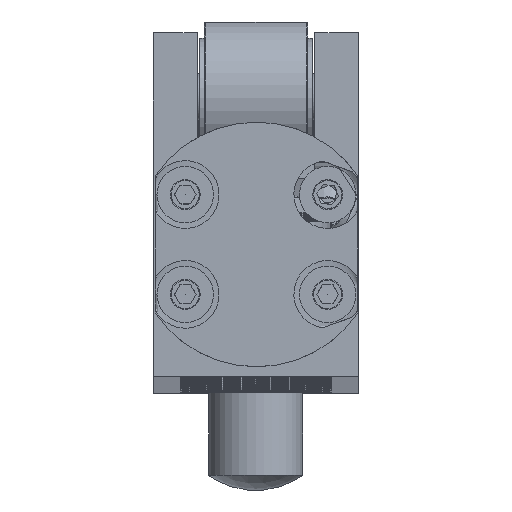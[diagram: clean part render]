
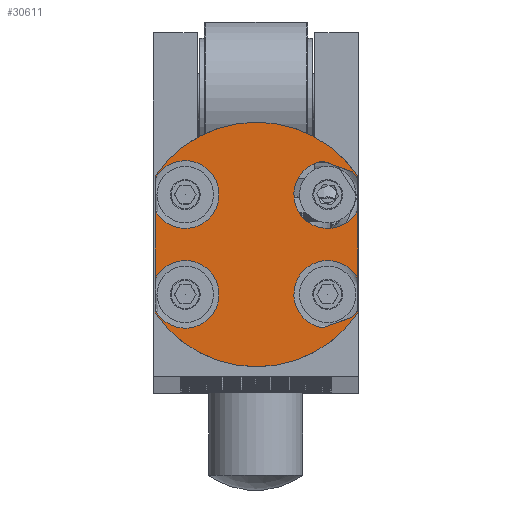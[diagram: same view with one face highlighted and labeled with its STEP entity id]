
A CAD part, top view. The second image highlights one B-rep face of the part: STEP entity #30611.
In plain terms, the highlighted planar face has unit normal (0, 0, 1).
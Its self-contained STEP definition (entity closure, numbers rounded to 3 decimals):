
#1512=PLANE('',#34669);
#2490=LINE('',#56692,#3575);
#2491=LINE('',#56695,#3576);
#2492=LINE('',#56699,#3577);
#2493=LINE('',#56703,#3578);
#2494=LINE('',#56707,#3579);
#2495=LINE('',#56711,#3580);
#2496=LINE('',#56715,#3581);
#2497=LINE('',#56718,#3582);
#3575=VECTOR('',#43825,10.);
#3576=VECTOR('',#43828,10.);
#3577=VECTOR('',#43831,10.);
#3578=VECTOR('',#43834,10.);
#3579=VECTOR('',#43837,10.);
#3580=VECTOR('',#43840,10.);
#3581=VECTOR('',#43843,10.);
#3582=VECTOR('',#43846,10.);
#5548=FACE_OUTER_BOUND('',#7410,.T.);
#7410=EDGE_LOOP('',(#25860,#25861,#25862,#25863,#25864,#25865,#25866,#25867,
#25868,#25869,#25870,#25871,#25872,#25873,#25874,#25875));
#10240=CIRCLE('',#34663,3.6);
#10243=CIRCLE('',#34666,3.6);
#10244=CIRCLE('',#34670,3.6);
#10245=CIRCLE('',#34671,3.6);
#10246=CIRCLE('',#34672,13.);
#10247=CIRCLE('',#34673,3.6);
#10248=CIRCLE('',#34674,3.6);
#10249=CIRCLE('',#34675,13.);
#13414=VERTEX_POINT('',#56668);
#13415=VERTEX_POINT('',#56669);
#13416=VERTEX_POINT('',#56673);
#13420=VERTEX_POINT('',#56684);
#13421=VERTEX_POINT('',#56694);
#13422=VERTEX_POINT('',#56696);
#13423=VERTEX_POINT('',#56698);
#13424=VERTEX_POINT('',#56700);
#13425=VERTEX_POINT('',#56702);
#13426=VERTEX_POINT('',#56704);
#13427=VERTEX_POINT('',#56706);
#13428=VERTEX_POINT('',#56708);
#13429=VERTEX_POINT('',#56710);
#13430=VERTEX_POINT('',#56712);
#13431=VERTEX_POINT('',#56714);
#13432=VERTEX_POINT('',#56716);
#17705=EDGE_CURVE('',#13416,#13414,#10240,.T.);
#17711=EDGE_CURVE('',#13415,#13420,#10243,.T.);
#17713=EDGE_CURVE('',#13420,#13416,#2490,.T.);
#17714=EDGE_CURVE('',#13414,#13421,#2491,.T.);
#17715=EDGE_CURVE('',#13421,#13422,#10244,.T.);
#17716=EDGE_CURVE('',#13422,#13423,#2492,.T.);
#17717=EDGE_CURVE('',#13423,#13424,#10245,.T.);
#17718=EDGE_CURVE('',#13424,#13425,#2493,.T.);
#17719=EDGE_CURVE('',#13426,#13425,#10246,.T.);
#17720=EDGE_CURVE('',#13426,#13427,#2494,.T.);
#17721=EDGE_CURVE('',#13427,#13428,#10247,.T.);
#17722=EDGE_CURVE('',#13428,#13429,#2495,.T.);
#17723=EDGE_CURVE('',#13429,#13430,#10248,.T.);
#17724=EDGE_CURVE('',#13430,#13431,#2496,.T.);
#17725=EDGE_CURVE('',#13432,#13431,#10249,.T.);
#17726=EDGE_CURVE('',#13432,#13415,#2497,.T.);
#25860=ORIENTED_EDGE('',*,*,#17711,.T.);
#25861=ORIENTED_EDGE('',*,*,#17713,.T.);
#25862=ORIENTED_EDGE('',*,*,#17705,.T.);
#25863=ORIENTED_EDGE('',*,*,#17714,.T.);
#25864=ORIENTED_EDGE('',*,*,#17715,.T.);
#25865=ORIENTED_EDGE('',*,*,#17716,.T.);
#25866=ORIENTED_EDGE('',*,*,#17717,.T.);
#25867=ORIENTED_EDGE('',*,*,#17718,.T.);
#25868=ORIENTED_EDGE('',*,*,#17719,.F.);
#25869=ORIENTED_EDGE('',*,*,#17720,.T.);
#25870=ORIENTED_EDGE('',*,*,#17721,.T.);
#25871=ORIENTED_EDGE('',*,*,#17722,.T.);
#25872=ORIENTED_EDGE('',*,*,#17723,.T.);
#25873=ORIENTED_EDGE('',*,*,#17724,.T.);
#25874=ORIENTED_EDGE('',*,*,#17725,.F.);
#25875=ORIENTED_EDGE('',*,*,#17726,.T.);
#30611=ADVANCED_FACE('',(#5548),#1512,.T.);
#34663=AXIS2_PLACEMENT_3D('',#56674,#43811,#43812);
#34666=AXIS2_PLACEMENT_3D('',#56688,#43818,#43819);
#34669=AXIS2_PLACEMENT_3D('',#56693,#43826,#43827);
#34670=AXIS2_PLACEMENT_3D('',#56697,#43829,#43830);
#34671=AXIS2_PLACEMENT_3D('',#56701,#43832,#43833);
#34672=AXIS2_PLACEMENT_3D('',#56705,#43835,#43836);
#34673=AXIS2_PLACEMENT_3D('',#56709,#43838,#43839);
#34674=AXIS2_PLACEMENT_3D('',#56713,#43841,#43842);
#34675=AXIS2_PLACEMENT_3D('',#56717,#43844,#43845);
#43811=DIRECTION('center_axis',(0.,0.,
-1.));
#43812=DIRECTION('ref_axis',(-0.342,0.94,0.));
#43818=DIRECTION('center_axis',(0.,0.,
-1.));
#43819=DIRECTION('ref_axis',(-0.342,0.94,0.));
#43825=DIRECTION('',(-0.94,-0.342,0.));
#43826=DIRECTION('center_axis',(0.,0.,
1.));
#43827=DIRECTION('ref_axis',(1.,0.,0.));
#43828=DIRECTION('',(0.,1.,0.));
#43829=DIRECTION('center_axis',(0.,0.,
-1.));
#43830=DIRECTION('ref_axis',(-0.342,-0.94,0.));
#43831=DIRECTION('',(0.94,-0.342,0.));
#43832=DIRECTION('center_axis',(0.,0.,
-1.));
#43833=DIRECTION('ref_axis',(-0.342,-0.94,0.));
#43834=DIRECTION('',(0.,1.,0.));
#43835=DIRECTION('center_axis',(0.,0.,
-1.));
#43836=DIRECTION('ref_axis',(0.,1.,0.));
#43837=DIRECTION('',(0.,-1.,0.));
#43838=DIRECTION('center_axis',(0.,0.,
-1.));
#43839=DIRECTION('ref_axis',(1.,0.,0.));
#43840=DIRECTION('',(0.,-1.,0.));
#43841=DIRECTION('center_axis',(0.,0.,
-1.));
#43842=DIRECTION('ref_axis',(1.,0.,0.));
#43843=DIRECTION('',(0.,-1.,0.));
#43844=DIRECTION('center_axis',(0.,0.,
-1.));
#43845=DIRECTION('ref_axis',(0.,1.,0.));
#43846=DIRECTION('',(0.,1.,0.));
#56668=CARTESIAN_POINT('',(10.8,-7.855,526.));
#56669=CARTESIAN_POINT('',(10.8,-11.256,526.));
#56673=CARTESIAN_POINT('',(7.114,-13.119,526.));
#56674=CARTESIAN_POINT('Origin',(7.627,-9.556,526.));
#56684=CARTESIAN_POINT('',(10.311,-11.955,526.));
#56688=CARTESIAN_POINT('Origin',(7.627,-9.556,526.));
#56692=CARTESIAN_POINT('',(8.206,-12.721,526.));
#56693=CARTESIAN_POINT('Origin',(0.05,2.25,526.));
#56694=CARTESIAN_POINT('',(10.8,-0.645,526.));
#56695=CARTESIAN_POINT('',(10.8,-4.655,526.));
#56696=CARTESIAN_POINT('',(7.114,4.619,526.));
#56697=CARTESIAN_POINT('Origin',(7.627,1.056,526.));
#56698=CARTESIAN_POINT('',(10.311,3.455,526.));
#56699=CARTESIAN_POINT('',(6.117,4.982,526.));
#56700=CARTESIAN_POINT('',(10.8,2.756,526.));
#56701=CARTESIAN_POINT('Origin',(7.627,1.056,526.));
#56702=CARTESIAN_POINT('',(10.8,3.06,526.));
#56703=CARTESIAN_POINT('',(10.8,-4.655,526.));
#56704=CARTESIAN_POINT('',(-10.7,3.06,526.));
#56705=CARTESIAN_POINT('Origin',(0.05,-4.25,526.));
#56706=CARTESIAN_POINT('',(-10.7,2.756,526.));
#56707=CARTESIAN_POINT('',(-10.7,2.655,526.));
#56708=CARTESIAN_POINT('',(-10.7,-0.645,526.));
#56709=CARTESIAN_POINT('Origin',(-7.527,1.056,526.));
#56710=CARTESIAN_POINT('',(-10.7,-7.855,526.));
#56711=CARTESIAN_POINT('',(-10.7,2.655,526.));
#56712=CARTESIAN_POINT('',(-10.7,-11.256,526.));
#56713=CARTESIAN_POINT('Origin',(-7.527,-9.556,526.));
#56714=CARTESIAN_POINT('',(-10.7,-11.56,526.));
#56715=CARTESIAN_POINT('',(-10.7,2.655,526.));
#56716=CARTESIAN_POINT('',(10.8,-11.56,526.));
#56717=CARTESIAN_POINT('Origin',(0.05,-4.25,526.));
#56718=CARTESIAN_POINT('',(10.8,-4.655,526.));
